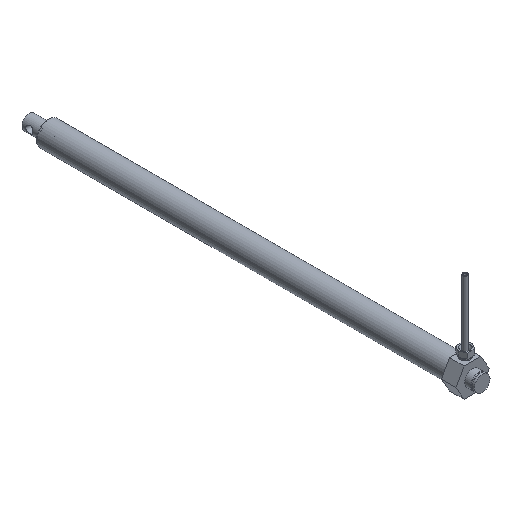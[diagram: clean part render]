
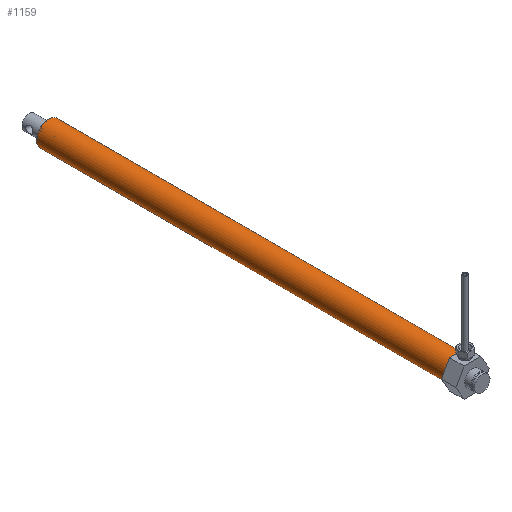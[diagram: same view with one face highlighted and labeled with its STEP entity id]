
A CAD part, isometric view. The second image highlights one B-rep face of the part: STEP entity #1159.
In plain terms, the highlighted cylindrical face has radius 10 mm (diameter 20 mm), a full revolution.
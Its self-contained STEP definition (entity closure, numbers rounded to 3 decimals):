
#220=CYLINDRICAL_SURFACE('',#1716,10.);
#257=ORIENTED_EDGE('',*,*,#511,.F.);
#258=ORIENTED_EDGE('',*,*,#510,.T.);
#510=EDGE_CURVE('',#639,#639,#750,.T.);
#511=EDGE_CURVE('',#640,#640,#751,.T.);
#639=VERTEX_POINT('',#2290);
#640=VERTEX_POINT('',#2293);
#750=CIRCLE('',#1715,10.);
#751=CIRCLE('',#1717,10.);
#830=EDGE_LOOP('',(#257));
#831=EDGE_LOOP('',(#258));
#994=FACE_BOUND('',#830,.T.);
#995=FACE_BOUND('',#831,.T.);
#1159=ADVANCED_FACE('',(#994,#995),#220,.T.);
#1715=AXIS2_PLACEMENT_3D('',#2289,#1903,#1904);
#1716=AXIS2_PLACEMENT_3D('',#2291,#1905,#1906);
#1717=AXIS2_PLACEMENT_3D('',#2292,#1907,#1908);
#1903=DIRECTION('',(-1.,0.,0.));
#1904=DIRECTION('',(0.,0.,1.));
#1905=DIRECTION('',(-1.,0.,0.));
#1906=DIRECTION('',(0.,0.,1.));
#1907=DIRECTION('',(-1.,0.,0.));
#1908=DIRECTION('',(0.,0.,1.));
#2289=CARTESIAN_POINT('',(340.,0.,0.));
#2290=CARTESIAN_POINT('',(340.,0.,10.));
#2291=CARTESIAN_POINT('',(-60.,0.,0.));
#2292=CARTESIAN_POINT('',(0.,0.,0.));
#2293=CARTESIAN_POINT('',(0.,0.,10.));
